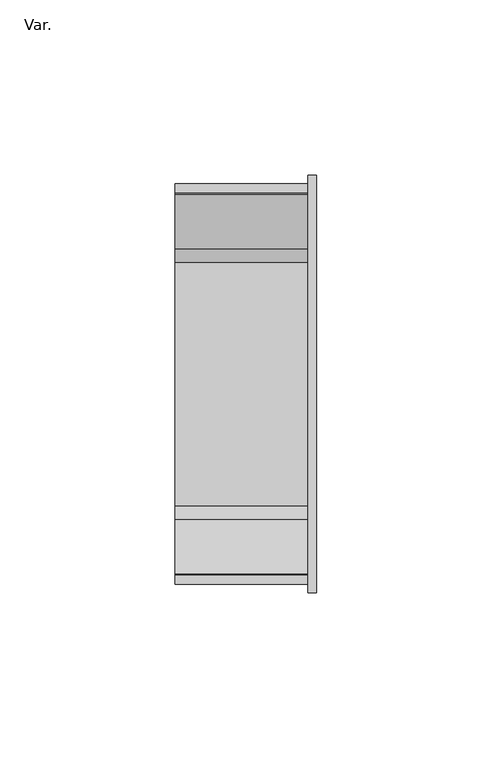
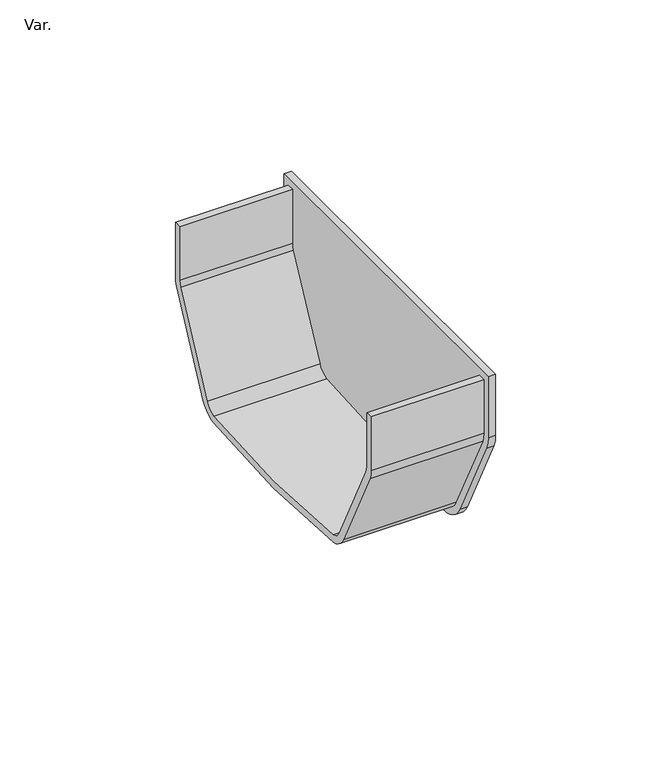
"""IFC4 building model written with IfcOpenShell, lengths in millimetres: pipe fitting geometry, PavcoWavin_UnionesDeTuberia_Canal Raingo_Tapa Interna : Var.."""

from ifc_helpers import new_model, si_unit, frame, origin, place, context, project, spatial, polyline, circle_curve, source, transform, mapped, element, save
from ifc_brep_helpers import plane_surface, cylinder_surface, revolved_surface, advanced_brep


def var_0d280a64(model_context):
    return source(origin(), model_context, "Body", "AdvancedBrep", [
        advanced_brep(
        [(0.0, -54.65, 62.5), (0.0, -54.65, 43.349975), (0.0, -54.2027934, 41.150986), (0.0, -38.6579303, 10.0009318), (0.0, -34.7990961, 7.009619), (0.0, 34.7990961, 7.009619), (0.0, 38.6579303, 10.0009318), (0.0, 54.2027934, 41.150986), (0.0, 54.65, 43.349975), (0.0, 54.65, 62.5), (0.0, 57.15, 62.5), (0.0, 57.15, 43.349975), (0.0, 56.4709703, 40.0972929), (0.0, 40.8948641, 8.8846311), (0.0, 35.1949678, 4.5387835), (0.0, -35.1949678, 4.5387835), (0.0, -40.8948641, 8.8846311), (0.0, -56.4709703, 40.0972929), (0.0, -57.15, 43.349975), (0.0, -57.15, 62.5), (38.0, 54.65, 62.5), (38.0, 57.15, 62.5), (38.0, 57.15, 43.349975), (38.0, 56.4709703, 40.0972929), (38.0, 40.8948641, 8.8846311), (38.0, 35.1949678, 4.5387835), (38.0, -35.1949678, 4.5387835), (38.0, -40.8948641, 8.8846311), (38.0, -56.4709703, 40.0972929), (38.0, -57.15, 43.349975), (38.0, -57.15, 62.5), (38.0, -54.65, 62.5), (38.0, -59.65, 65.0), (38.0, 59.65, 65.0), (38.0, 59.65, 43.349975), (38.0, 58.7346069, 39.0345014), (38.0, 43.1317978, 7.7683303), (38.0, 35.5756149, 2.0662115), (38.0, -35.5756149, 2.0662115), (38.0, -43.1317978, 7.7683303), (38.0, -58.7346069, 39.0345014), (38.0, -59.65, 43.349975), (38.0, 54.65, 43.349975), (38.0, 54.2027934, 41.150986), (38.0, 38.6579303, 10.0009318), (38.0, 34.7990961, 7.009619), (38.0, -34.7990961, 7.009619), (38.0, -38.6579303, 10.0009318), (38.0, -54.2027934, 41.150986), (38.0, -54.65, 43.349975), (40.5, -59.65, 65.0), (40.5, -59.65, 43.349975), (40.5, -58.7346069, 39.0345014), (40.5, -43.1317978, 7.7683303), (40.5, -35.5756149, 2.0662115), (40.5, 35.5756149, 2.0662115), (40.5, 43.1317978, 7.7683303), (40.5, 58.7346069, 39.0345014), (40.5, 59.65, 43.349975), (40.5, 59.65, 65.0)],
        [
            (0, 1),
            (1, 2, circle_curve(frame((0.0, -49.02, 43.349975), z_axis=(1.0, 0.0, 0.0), x_axis=(0.0, -1.0, 0.0)), 5.63)),
            (2, 3),
            (3, 4, circle_curve(frame((0.0, -33.6203555, 12.5148411), z_axis=(1.0, 0.0, 0.0), x_axis=(0.0, -1.0, 0.0)), 5.63)),
            (4, 5, circle_curve(frame((0.0, 0.0, 307.3), z_axis=(1.0, 0.0, 0.0), x_axis=(0.0, -1.0, 0.0)), 302.3)),
            (5, 6, circle_curve(frame((0.0, 33.6203555, 12.5148411), z_axis=(1.0, 0.0, 0.0), x_axis=(0.0, 1.0, 0.0)), 5.63)),
            (6, 7),
            (7, 8, circle_curve(frame((0.0, 49.02, 43.349975), z_axis=(1.0, 0.0, 0.0), x_axis=(0.0, 1.0, 0.0)), 5.63)),
            (8, 9),
            (9, 10),
            (10, 11),
            (11, 12, circle_curve(frame((0.0, 49.02, 43.349975), z_axis=(-1.0, 0.0, 0.0), x_axis=(0.0, 1.0, 0.0)), 8.13)),
            (12, 13),
            (13, 14, circle_curve(frame((0.0, 33.6203555, 12.5148411), z_axis=(-1.0, 0.0, 0.0), x_axis=(0.0, 1.0, 0.0)), 8.13)),
            (14, 15, circle_curve(frame((0.0, 0.0, 307.3), z_axis=(-1.0, 0.0, 0.0), x_axis=(0.0, -1.0, 0.0)), 304.8)),
            (15, 16, circle_curve(frame((0.0, -33.6203555, 12.5148411), z_axis=(-1.0, 0.0, 0.0), x_axis=(0.0, -1.0, 0.0)), 8.13)),
            (16, 17),
            (17, 18, circle_curve(frame((0.0, -49.02, 43.349975), z_axis=(-1.0, 0.0, 0.0), x_axis=(0.0, -1.0, 0.0)), 8.13)),
            (18, 19),
            (19, 0),
            (9, 20),
            (20, 21),
            (21, 10),
            (21, 22),
            (22, 11),
            (22, 23, circle_curve(frame((38.0, 49.02, 43.349975), z_axis=(-1.0, 0.0, 0.0), x_axis=(0.0, 1.0, 0.0)), 8.13)),
            (23, 12),
            (23, 24),
            (24, 13),
            (24, 25, circle_curve(frame((38.0, 33.6203555, 12.5148411), z_axis=(-1.0, 0.0, 0.0), x_axis=(0.0, 1.0, 0.0)), 8.13)),
            (25, 14),
            (25, 26, circle_curve(frame((38.0, 0.0, 307.3), z_axis=(-1.0, 0.0, 0.0), x_axis=(0.0, -1.0, 0.0)), 304.8)),
            (26, 15),
            (26, 27, circle_curve(frame((38.0, -33.6203555, 12.5148411), z_axis=(-1.0, 0.0, 0.0), x_axis=(0.0, -1.0, 0.0)), 8.13)),
            (27, 16),
            (27, 28),
            (28, 17),
            (28, 29, circle_curve(frame((38.0, -49.02, 43.349975), z_axis=(-1.0, 0.0, 0.0), x_axis=(0.0, -1.0, 0.0)), 8.13)),
            (29, 18),
            (29, 30),
            (30, 19),
            (30, 31),
            (31, 0),
            (32, 33),
            (33, 34),
            (34, 35, circle_curve(frame((38.0, 49.02, 43.349975), z_axis=(-1.0, 0.0, 0.0), x_axis=(0.0, -1.0, 0.0)), 10.63)),
            (35, 36),
            (36, 37, circle_curve(frame((38.0, 33.6203555, 12.5148411), z_axis=(-1.0, 0.0, 0.0), x_axis=(0.0, -1.0, 0.0)), 10.63)),
            (37, 38, circle_curve(frame((38.0, 0.0, 307.3), z_axis=(-1.0, 0.0, 0.0), x_axis=(0.0, -1.0, 0.0)), 307.3)),
            (38, 39, circle_curve(frame((38.0, -33.6203555, 12.5148411), z_axis=(-1.0, 0.0, 0.0), x_axis=(0.0, -1.0, 0.0)), 10.63)),
            (39, 40),
            (40, 41, circle_curve(frame((38.0, -49.02, 43.349975), z_axis=(-1.0, 0.0, 0.0), x_axis=(0.0, -1.0, 0.0)), 10.63)),
            (41, 32),
            (20, 42),
            (42, 43, circle_curve(frame((38.0, 49.02, 43.349975), z_axis=(-1.0, 0.0, 0.0), x_axis=(0.0, 1.0, 0.0)), 5.63)),
            (43, 44),
            (44, 45, circle_curve(frame((38.0, 33.6203555, 12.5148411), z_axis=(-1.0, 0.0, 0.0), x_axis=(0.0, 1.0, 0.0)), 5.63)),
            (45, 46, circle_curve(frame((38.0, 0.0, 307.3), z_axis=(-1.0, 0.0, 0.0), x_axis=(0.0, -1.0, 0.0)), 302.3)),
            (46, 47, circle_curve(frame((38.0, -33.6203555, 12.5148411), z_axis=(-1.0, 0.0, 0.0), x_axis=(0.0, -1.0, 0.0)), 5.63)),
            (47, 48),
            (48, 49, circle_curve(frame((38.0, -49.02, 43.349975), z_axis=(-1.0, 0.0, 0.0), x_axis=(0.0, -1.0, 0.0)), 5.63)),
            (49, 31),
            (50, 51),
            (51, 52, circle_curve(frame((40.5, -49.02, 43.349975), z_axis=(1.0, 0.0, 0.0), x_axis=(0.0, -1.0, 0.0)), 10.63)),
            (52, 53),
            (53, 54, circle_curve(frame((40.5, -33.6203555, 12.5148411), z_axis=(1.0, 0.0, 0.0), x_axis=(0.0, -1.0, 0.0)), 10.63)),
            (54, 55, circle_curve(frame((40.5, 0.0, 307.3), z_axis=(1.0, 0.0, 0.0), x_axis=(0.0, -1.0, 0.0)), 307.3)),
            (55, 56, circle_curve(frame((40.5, 33.6203555, 12.5148411), z_axis=(1.0, 0.0, 0.0), x_axis=(0.0, -1.0, 0.0)), 10.63)),
            (56, 57),
            (57, 58, circle_curve(frame((40.5, 49.02, 43.349975), z_axis=(1.0, 0.0, 0.0), x_axis=(0.0, -1.0, 0.0)), 10.63)),
            (58, 59),
            (59, 50),
            (41, 51),
            (50, 32),
            (40, 52),
            (39, 53),
            (38, 54),
            (37, 55),
            (36, 56),
            (35, 57),
            (34, 58),
            (33, 59),
            (8, 42),
            (7, 43),
            (6, 44),
            (5, 45),
            (4, 46),
            (3, 47),
            (2, 48),
            (1, 49),
        ],
        [
            plane_surface(frame((0.0, -59.533606, 62.5), z_axis=(-1.0, 0.0, 0.0), x_axis=(0.0, 1.0, 0.0))),
            plane_surface(frame((38.0, 57.15, 62.5), z_axis=(0.0, 0.0, 1.0), x_axis=(-1.0, 0.0, 0.0))),
            plane_surface(frame((38.0, 57.15, 43.349975), z_axis=(0.0, 1.0, 0.0), x_axis=(-1.0, 0.0, 0.0))),
            cylinder_surface(frame((0.0, 49.02, 43.349975), z_axis=(1.0, 0.0, 0.0), x_axis=(0.0, 1.0, 0.0)), 8.13),
            plane_surface(frame((38.0, 40.8948641, 8.8846311), z_axis=(0.0, 0.8947735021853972, -0.4465203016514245), x_axis=(-1.0, 0.0, 0.0))),
            cylinder_surface(frame((0.0, 33.6203555, 12.5148411), z_axis=(1.0, 0.0, 0.0), x_axis=(0.0, 1.0, 0.0)), 8.13),
            cylinder_surface(frame((0.0, 0.0, 307.3), z_axis=(1.0, 0.0, 0.0), x_axis=(0.0, -1.0, 0.0)), 304.8),
            cylinder_surface(frame((0.0, -33.6203555, 12.5148411), z_axis=(1.0, 0.0, 0.0), x_axis=(0.0, -1.0, 0.0)), 8.13),
            plane_surface(frame((38.0, -56.4709703, 40.0972929), z_axis=(0.0, -0.8947735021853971, -0.4465203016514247), x_axis=(-1.0, 0.0, 0.0))),
            cylinder_surface(frame((0.0, -49.02, 43.349975), z_axis=(1.0, 0.0, 0.0), x_axis=(0.0, -1.0, 0.0)), 8.13),
            plane_surface(frame((38.0, -57.15, 62.5), z_axis=(0.0, -1.0, 0.0), x_axis=(-1.0, 0.0, 0.0))),
            plane_surface(frame((38.0, -54.65, 62.5), z_axis=(0.0, 0.0, 1.0), x_axis=(-1.0, 0.0, 0.0))),
            plane_surface(frame((38.0, -59.65, 70.30297), z_axis=(-1.0, 0.0, 0.0), x_axis=(0.0, 0.0, 1.0))),
            plane_surface(frame((40.5, -59.65, 70.30297), z_axis=(1.0, 0.0, 0.0), x_axis=(0.0, 0.0, -1.0))),
            plane_surface(frame((40.5, -59.65, 65.0), z_axis=(0.0, -1.0, 0.0), x_axis=(-1.0, 0.0, 0.0))),
            cylinder_surface(frame((38.0, -49.02, 43.349975), z_axis=(1.0, 0.0, 0.0), x_axis=(0.0, -1.0, 0.0)), 10.63),
            plane_surface(frame((40.5, -58.7346069, 39.0345014), z_axis=(0.0, -0.8947735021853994, -0.44652030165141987), x_axis=(-1.0, 0.0, 0.0))),
            cylinder_surface(frame((38.0, -33.6203555, 12.5148411), z_axis=(1.0, 0.0, 0.0), x_axis=(0.0, -1.0, 0.0)), 10.63),
            cylinder_surface(frame((38.0, 0.0, 307.3), z_axis=(1.0, 0.0, 0.0), x_axis=(0.0, -1.0, 0.0)), 307.3),
            cylinder_surface(frame((38.0, 33.6203555, 12.5148411), z_axis=(1.0, 0.0, 0.0), x_axis=(0.0, -1.0, 0.0)), 10.63),
            plane_surface(frame((40.5, 43.1317978, 7.7683303), z_axis=(0.0, 0.8947735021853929, -0.446520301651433), x_axis=(-1.0, 0.0, 0.0))),
            cylinder_surface(frame((38.0, 49.02, 43.349975), z_axis=(1.0, 0.0, 0.0), x_axis=(0.0, -1.0, 0.0)), 10.63),
            plane_surface(frame((40.5, 59.65, 43.349975), z_axis=(0.0, 1.0, 0.0), x_axis=(-1.0, 0.0, 0.0))),
            plane_surface(frame((40.5, 59.65, 65.0), z_axis=(0.0, 0.0, 1.0), x_axis=(-1.0, 0.0, 0.0))),
            plane_surface(frame((38.0, 54.65, 62.5), z_axis=(0.0, -1.0, 0.0), x_axis=(-1.0, 0.0, 0.0))),
            revolved_surface(polyline([(0.0, 54.650000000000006, 43.349975), (38.0, 54.650000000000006, 43.349975)]), (0.0, 49.02, 43.349975), (-1.0, 0.0, 0.0)),
            plane_surface(frame((38.0, 54.2027934, 41.150986), z_axis=(0.0, -0.8947735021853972, 0.4465203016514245), x_axis=(-1.0, 0.0, 0.0))),
            revolved_surface(polyline([(0.0, 39.250355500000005, 12.5148411), (38.0, 39.250355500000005, 12.5148411)]), (0.0, 33.6203555, 12.5148411), (-1.0, 0.0, 0.0)),
            revolved_surface(polyline([(0.0, -302.3, 307.3), (38.0, -302.3, 307.3)]), (0.0, 0.0, 307.3), (-1.0, 0.0, 0.0)),
            revolved_surface(polyline([(0.0, -39.250355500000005, 12.5148411), (38.0, -39.250355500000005, 12.5148411)]), (0.0, -33.6203555, 12.5148411), (-1.0, 0.0, 0.0)),
            plane_surface(frame((38.0, -38.6579303, 10.0009318), z_axis=(0.0, 0.8947735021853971, 0.4465203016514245), x_axis=(-1.0, 0.0, 0.0))),
            revolved_surface(polyline([(0.0, -54.650000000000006, 43.349975), (38.0, -54.650000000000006, 43.349975)]), (0.0, -49.02, 43.349975), (-1.0, 0.0, 0.0)),
            plane_surface(frame((38.0, -54.65, 43.349975), z_axis=(0.0, 1.0, 0.0), x_axis=(-1.0, 0.0, 0.0))),
        ],
        [
            (0, [[1, 2, 3, 4, 5, 6, 7, 8, 9, 10, 11, 12, 13, 14, 15, 16, 17, 18, 19, 20]]),
            (1, [[-10, 21, 22, 23]]),
            (2, [[-11, -23, 24, 25]]),
            (3, [[-12, -25, 26, 27]]),
            (4, [[-13, -27, 28, 29]]),
            (5, [[-14, -29, 30, 31]]),
            (6, [[-15, -31, 32, 33]]),
            (7, [[-16, -33, 34, 35]]),
            (8, [[-17, -35, 36, 37]]),
            (9, [[-18, -37, 38, 39]]),
            (10, [[-19, -39, 40, 41]]),
            (11, [[-20, -41, 42, 43]]),
            (12, [[44, 45, 46, 47, 48, 49, 50, 51, 52, 53], [-22, 54, 55, 56, 57, 58, 59, 60, 61, 62, -42, -40, -38, -36, -34, -32, -30, -28, -26, -24]]),
            (13, [[63, 64, 65, 66, 67, 68, 69, 70, 71, 72]]),
            (14, [[-53, 73, -63, 74]]),
            (15, [[-52, 75, -64, -73]]),
            (16, [[-51, 76, -65, -75]]),
            (17, [[-50, 77, -66, -76]]),
            (18, [[-49, 78, -67, -77]]),
            (19, [[-48, 79, -68, -78]]),
            (20, [[-47, 80, -69, -79]]),
            (21, [[-46, 81, -70, -80]]),
            (22, [[-45, 82, -71, -81]]),
            (23, [[-44, -74, -72, -82]]),
            (24, [[-9, 83, -54, -21]]),
            (25, [[-8, 84, -55, -83]]),
            (26, [[-7, 85, -56, -84]]),
            (27, [[-6, 86, -57, -85]]),
            (28, [[-5, 87, -58, -86]]),
            (29, [[-4, 88, -59, -87]]),
            (30, [[-3, 89, -60, -88]]),
            (31, [[-2, 90, -61, -89]]),
            (32, [[-1, -43, -62, -90]]),
        ],
    ),
    ])


if __name__ == "__main__":
    model = new_model("IFC4")
    model_context = context("Model", 3, world=origin())
    ifc_project = project(units=[si_unit("LENGTHUNIT", "METRE", prefix="MILLI")], contexts=[model_context])
    site = spatial("IfcSite", under=ifc_project)
    building = spatial("IfcBuilding", under=site)
    placement = place(None, origin())
    var_shape = var_0d280a64(model_context)
    element("IfcPipeFitting", 1, ObjectType="PavcoWavin_UnionesDeTuberia_Canal Raingo_Tapa Interna : Var.", at=placement, inside=building, context=model_context, shape_type="MappedRepresentation", body=[
        mapped(var_shape, transform((0.0, 0.0, 0.0), x_axis=(1.0, 0.0, 0.0), y_axis=(0.0, 1.0, 0.0), z_axis=(0.0, 0.0, 1.0))),
    ])
    save(model, "model.ifc")
